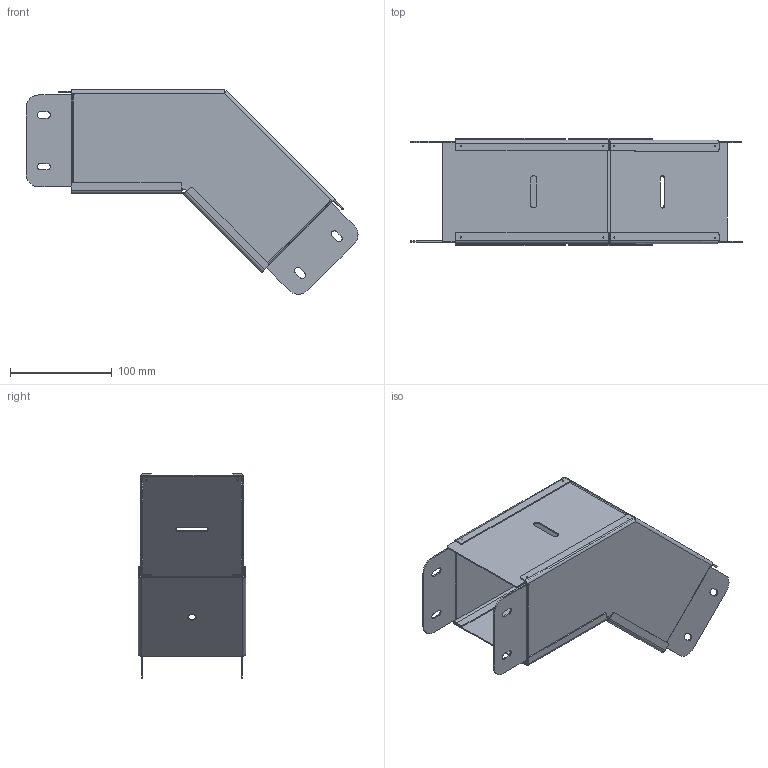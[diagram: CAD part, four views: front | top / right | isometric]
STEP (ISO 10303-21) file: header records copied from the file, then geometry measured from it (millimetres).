
FILE_DESCRIPTION (( 'STEP AP214' ), '1' );
FILE_NAME ('ct44eic45ss.STEP', '2007-05-22T17:12:16', ( '' ), ( '' ), 'SwSTEP 2.0', 'SolidWorks 2007', '' );
FILE_SCHEMA (( 'AUTOMOTIVE_DESIGN' ));
Length unit declared in the file: inch
Products named in the file (5): ct44eic45ss; Lid Inside Opening 45_87575224_4X4; Weld Inside open 45_87575157_4x4; Side Inside OPENING 45_87575206_4X4; BOTTOM INSIDE OPENING 45_87575208_4x4
Assembly tree (5 placements, depth 3):
  ct44eic45ss
    Weld Inside open 45_87575157_4x4
      BOTTOM INSIDE OPENING 45_87575208_4x4
      Side Inside OPENING 45_87575206_4X4  x2
    Lid Inside Opening 45_87575224_4X4
Bounding box: 325.93 x 105.67 x 200.72 mm (x, y, z)
Volume: 163629.7 mm3; surface area: 274358.1 mm2
Topology: 4 solids, 4 shells, 431 faces, 1077 edges, 654 vertices
Faces by surface type: plane 194, cylinder 133, cone 64, sphere 32, bspline 8
Entity records: 8621 total; most frequent: CARTESIAN_POINT 1627, DIRECTION 1522, ORIENTED_EDGE 1364, EDGE_CURVE 682, AXIS2_PLACEMENT_3D 567, VERTEX_POINT 428, VECTOR 388, LINE 388
